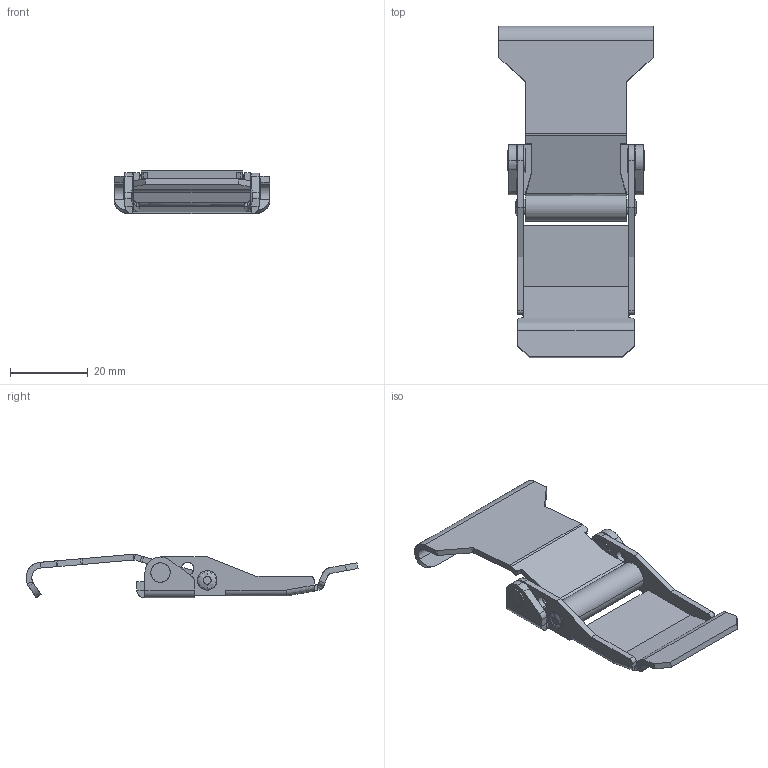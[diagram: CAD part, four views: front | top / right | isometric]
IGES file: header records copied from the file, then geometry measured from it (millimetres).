
Start section: SolidWorks IGES FILE using analytic representation for surfaces
Global section: file name: C:\Documents and Settings\brechard\Bureau\GE 85\GE 85.IGS; native system: SolidWorks 2001Plus by SolidWorks Corporation; preprocessor: Version 5.3; author: brechard; date: 050126.112902; units: millimetre
Bounding box: 40 x 85.33 x 11.23 mm (x, y, z)
Surface area: 10114.7 mm2 (no closed solid volume)
Topology: 0 solids, 0 shells, 197 faces, 2596 edges, 2596 vertices
Faces by surface type: bspline 118, revolution 79
